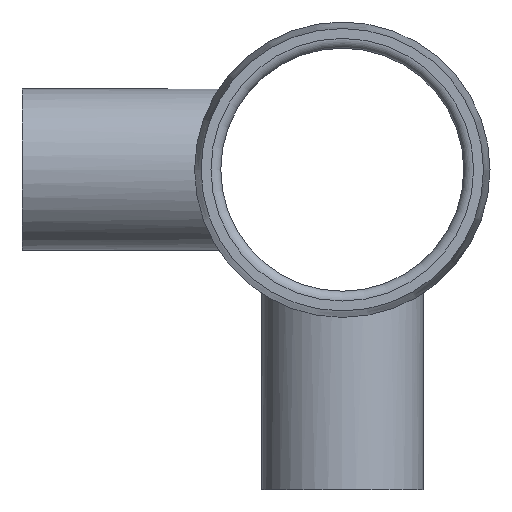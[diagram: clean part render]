
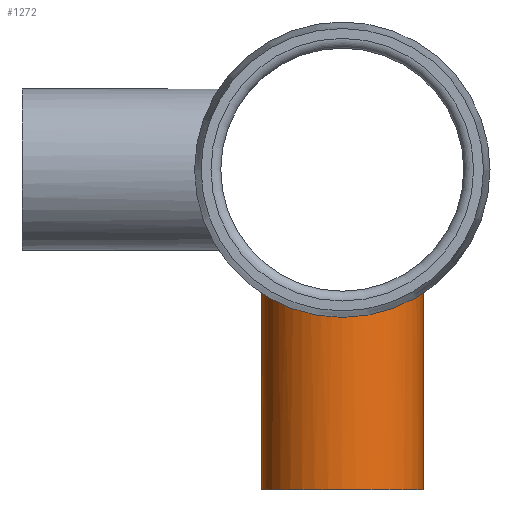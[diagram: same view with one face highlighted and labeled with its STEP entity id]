
A CAD part, left-side view. The second image highlights one B-rep face of the part: STEP entity #1272.
In plain terms, the highlighted cylindrical face has radius 16.701 mm (diameter 33.401 mm), a full revolution.
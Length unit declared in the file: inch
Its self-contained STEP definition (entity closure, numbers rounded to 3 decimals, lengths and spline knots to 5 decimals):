
#106=FACE_OUTER_BOUND('',#167,.T.);
#167=EDGE_LOOP('',(#810,#811,#812,#813,#814));
#239=B_SPLINE_CURVE_WITH_KNOTS('',3,(#2139,#2140,#2141,#2142,#2143,#2144,
#2145,#2146,#2147,#2148,#2149,#2150,#2151,#2152,#2153,#2154),
 .UNSPECIFIED.,.F.,.F.,(4,2,2,2,2,2,2,4),(0.,0.32343,0.64685,
1.29371,1.61572,1.93773,2.25974,2.58175),
 .UNSPECIFIED.);
#240=B_SPLINE_CURVE_WITH_KNOTS('',3,(#2155,#2156,#2157,#2158,#2159,#2160,
#2161,#2162,#2163,#2164,#2165,#2166,#2167,#2168,#2169,#2170,#2171,#2172,
#2173,#2174,#2175,#2176,#2177,#2178,#2179,#2180,#2181,#2182,#2183,#2184,
#2185,#2186,#2187,#2188,#2189,#2190,#2191,#2192,#2193,#2194,#2195,#2196,
#2197,#2198),.UNSPECIFIED.,.F.,.F.,(4,2,2,2,2,2,2,2,2,2,2,2,2,2,2,2,2,2,
2,2,2,4),(2.58175,2.90376,3.22577,3.54778,
3.8698,4.51665,4.84008,5.16351,5.48693,
5.81036,6.45721,6.77923,7.10124,7.42325,
7.74526,8.06727,8.38928,8.71129,9.0333,
9.68016,10.00358,10.32701),.UNSPECIFIED.);
#247=LINE('',#2200,#271);
#271=VECTOR('',#1604,0.6575);
#296=CIRCLE('',#1356,0.6575);
#462=VERTEX_POINT('',#2137);
#463=VERTEX_POINT('',#2138);
#464=VERTEX_POINT('',#2199);
#610=EDGE_CURVE('',#462,#463,#239,.T.);
#611=EDGE_CURVE('',#463,#462,#240,.T.);
#612=EDGE_CURVE('',#463,#464,#247,.T.);
#613=EDGE_CURVE('',#464,#464,#296,.T.);
#810=ORIENTED_EDGE('',*,*,#610,.F.);
#811=ORIENTED_EDGE('',*,*,#611,.F.);
#812=ORIENTED_EDGE('',*,*,#612,.T.);
#813=ORIENTED_EDGE('',*,*,#613,.F.);
#814=ORIENTED_EDGE('',*,*,#612,.F.);
#1193=CYLINDRICAL_SURFACE('',#1355,0.6575);
#1272=ADVANCED_FACE('',(#106),#1193,.T.);
#1355=AXIS2_PLACEMENT_3D('',#2136,#1602,#1603);
#1356=AXIS2_PLACEMENT_3D('',#2201,#1605,#1606);
#1602=DIRECTION('center_axis',(0.,0.,1.));
#1603=DIRECTION('ref_axis',(-1.,0.,0.));
#1604=DIRECTION('',(0.,0.,-1.));
#1605=DIRECTION('center_axis',(0.,0.,-1.));
#1606=DIRECTION('ref_axis',(-1.,0.,0.));
#2136=CARTESIAN_POINT('Origin',(1.96,0.,-2.6075));
#2137=CARTESIAN_POINT('',(1.96,-0.6575,-0.98886));
#2138=CARTESIAN_POINT('',(2.6175,0.,-1.1875));
#2139=CARTESIAN_POINT('Ctrl Pts',(1.96,-0.6575,-0.98886));
#2140=CARTESIAN_POINT('Ctrl Pts',(2.00244,-0.6575,-0.98886));
#2141=CARTESIAN_POINT('Ctrl Pts',(2.04592,-0.65333,-0.99168));
#2142=CARTESIAN_POINT('Ctrl Pts',(2.13166,-0.6362,-1.00275));
#2143=CARTESIAN_POINT('Ctrl Pts',(2.17393,-0.62326,-1.01099));
#2144=CARTESIAN_POINT('Ctrl Pts',(2.2948,-0.57258,-1.04108));
#2145=CARTESIAN_POINT('Ctrl Pts',(2.36744,-0.5224,-1.06825));
#2146=CARTESIAN_POINT('Ctrl Pts',(2.45354,-0.43631,-1.10488));
#2147=CARTESIAN_POINT('Ctrl Pts',(2.48056,-0.40392,-1.11731));
#2148=CARTESIAN_POINT('Ctrl Pts',(2.52851,-0.33307,-1.14044));
#2149=CARTESIAN_POINT('Ctrl Pts',(2.54944,-0.2946,-1.15112));
#2150=CARTESIAN_POINT('Ctrl Pts',(2.5833,-0.21383,-1.16882));
#2151=CARTESIAN_POINT('Ctrl Pts',(2.59626,-0.17146,-1.17585));
#2152=CARTESIAN_POINT('Ctrl Pts',(2.61336,-0.08567,
-1.18519));
#2153=CARTESIAN_POINT('Ctrl Pts',(2.6175,-0.04226,-1.1875));
#2154=CARTESIAN_POINT('Ctrl Pts',(2.6175,0.,-1.1875));
#2155=CARTESIAN_POINT('Ctrl Pts',(2.6175,0.,-1.1875));
#2156=CARTESIAN_POINT('Ctrl Pts',(2.6175,0.04226,-1.1875));
#2157=CARTESIAN_POINT('Ctrl Pts',(2.61336,0.08567,-1.18519));
#2158=CARTESIAN_POINT('Ctrl Pts',(2.59626,0.17146,-1.17585));
#2159=CARTESIAN_POINT('Ctrl Pts',(2.5833,0.21383,-1.16882));
#2160=CARTESIAN_POINT('Ctrl Pts',(2.54944,0.2946,-1.15112));
#2161=CARTESIAN_POINT('Ctrl Pts',(2.52851,0.33307,-1.14044));
#2162=CARTESIAN_POINT('Ctrl Pts',(2.48056,0.40392,-1.11731));
#2163=CARTESIAN_POINT('Ctrl Pts',(2.45354,0.43631,-1.10488));
#2164=CARTESIAN_POINT('Ctrl Pts',(2.36744,0.5224,-1.06825));
#2165=CARTESIAN_POINT('Ctrl Pts',(2.2948,0.57258,-1.04108));
#2166=CARTESIAN_POINT('Ctrl Pts',(2.17393,0.62326,-1.01099));
#2167=CARTESIAN_POINT('Ctrl Pts',(2.13166,0.6362,-1.00275));
#2168=CARTESIAN_POINT('Ctrl Pts',(2.04592,0.65333,-0.99168));
#2169=CARTESIAN_POINT('Ctrl Pts',(2.00244,0.6575,-0.98886));
#2170=CARTESIAN_POINT('Ctrl Pts',(1.91756,0.6575,-0.98886));
#2171=CARTESIAN_POINT('Ctrl Pts',(1.87408,0.65333,-0.99168));
#2172=CARTESIAN_POINT('Ctrl Pts',(1.78834,0.6362,-1.00275));
#2173=CARTESIAN_POINT('Ctrl Pts',(1.74607,0.62326,-1.01099));
#2174=CARTESIAN_POINT('Ctrl Pts',(1.6252,0.57258,-1.04108));
#2175=CARTESIAN_POINT('Ctrl Pts',(1.55256,0.5224,-1.06825));
#2176=CARTESIAN_POINT('Ctrl Pts',(1.46646,0.43631,-1.10488));
#2177=CARTESIAN_POINT('Ctrl Pts',(1.43944,0.40392,-1.11731));
#2178=CARTESIAN_POINT('Ctrl Pts',(1.39149,0.33307,-1.14044));
#2179=CARTESIAN_POINT('Ctrl Pts',(1.37056,0.2946,-1.15112));
#2180=CARTESIAN_POINT('Ctrl Pts',(1.3367,0.21383,-1.16882));
#2181=CARTESIAN_POINT('Ctrl Pts',(1.32374,0.17146,-1.17585));
#2182=CARTESIAN_POINT('Ctrl Pts',(1.30664,0.08567,-1.18519));
#2183=CARTESIAN_POINT('Ctrl Pts',(1.3025,0.04226,-1.1875));
#2184=CARTESIAN_POINT('Ctrl Pts',(1.3025,-0.04226,-1.1875));
#2185=CARTESIAN_POINT('Ctrl Pts',(1.30664,-0.08567,
-1.18519));
#2186=CARTESIAN_POINT('Ctrl Pts',(1.32374,-0.17146,-1.17585));
#2187=CARTESIAN_POINT('Ctrl Pts',(1.3367,-0.21383,-1.16882));
#2188=CARTESIAN_POINT('Ctrl Pts',(1.37056,-0.2946,-1.15112));
#2189=CARTESIAN_POINT('Ctrl Pts',(1.39149,-0.33307,-1.14044));
#2190=CARTESIAN_POINT('Ctrl Pts',(1.43944,-0.40392,-1.11731));
#2191=CARTESIAN_POINT('Ctrl Pts',(1.46646,-0.43631,-1.10488));
#2192=CARTESIAN_POINT('Ctrl Pts',(1.55256,-0.5224,-1.06825));
#2193=CARTESIAN_POINT('Ctrl Pts',(1.6252,-0.57258,-1.04108));
#2194=CARTESIAN_POINT('Ctrl Pts',(1.74607,-0.62326,-1.01099));
#2195=CARTESIAN_POINT('Ctrl Pts',(1.78834,-0.6362,-1.00275));
#2196=CARTESIAN_POINT('Ctrl Pts',(1.87408,-0.65333,-0.99168));
#2197=CARTESIAN_POINT('Ctrl Pts',(1.91756,-0.6575,-0.98886));
#2198=CARTESIAN_POINT('Ctrl Pts',(1.96,-0.6575,-0.98886));
#2199=CARTESIAN_POINT('',(2.6175,0.,-2.6075));
#2200=CARTESIAN_POINT('',(2.6175,0.,-2.6075));
#2201=CARTESIAN_POINT('Origin',(1.96,0.,-2.6075));
